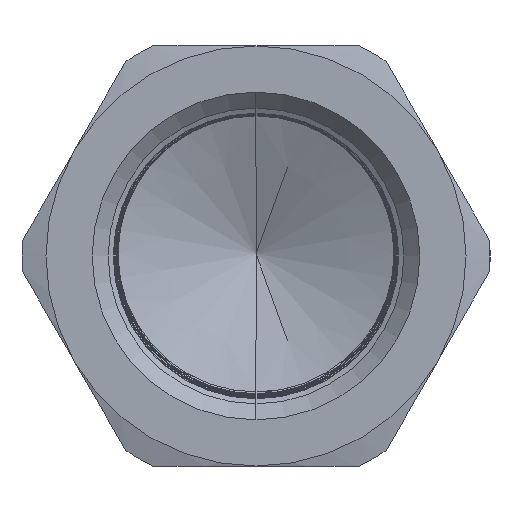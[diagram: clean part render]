
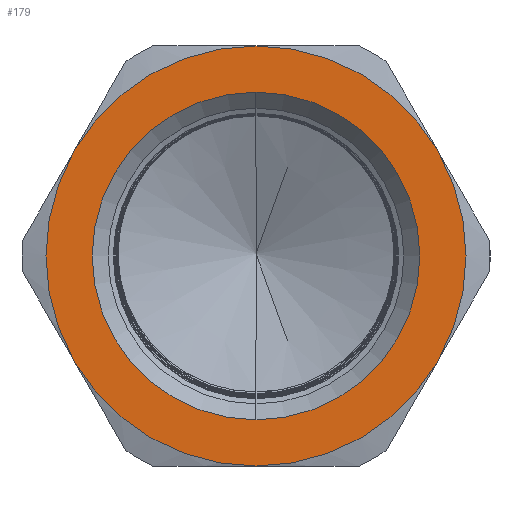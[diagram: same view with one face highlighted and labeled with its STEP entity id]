
A CAD part, left-side view. The second image highlights one B-rep face of the part: STEP entity #179.
In plain terms, the highlighted planar face has unit normal (-1, 0, 0).
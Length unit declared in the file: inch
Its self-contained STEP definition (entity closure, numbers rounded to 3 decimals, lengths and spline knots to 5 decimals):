
#72 = EDGE_CURVE ( 'NONE', #3877, #3922, #16555, .T. ) ;
#179 = ADVANCED_FACE ( 'NONE', ( #7583, #7575 ), #7584, .F. ) ;
#834 = EDGE_CURVE ( 'NONE', #2855, #2848, #9281, .T. ) ;
#835 = EDGE_CURVE ( 'NONE', #2848, #2846, #9287, .T. ) ;
#836 = EDGE_CURVE ( 'NONE', #2846, #2845, #9296, .T. ) ;
#837 = EDGE_CURVE ( 'NONE', #2845, #2844, #9300, .T. ) ;
#838 = EDGE_CURVE ( 'NONE', #2844, #2843, #9305, .T. ) ;
#839 = EDGE_CURVE ( 'NONE', #2843, #2855, #9308, .T. ) ;
#840 = EDGE_CURVE ( 'NONE', #3922, #3877, #9311, .T. ) ;
#2843 = VERTEX_POINT ( 'NONE', #12300 ) ;
#2844 = VERTEX_POINT ( 'NONE', #12301 ) ;
#2845 = VERTEX_POINT ( 'NONE', #12302 ) ;
#2846 = VERTEX_POINT ( 'NONE', #12303 ) ;
#2848 = VERTEX_POINT ( 'NONE', #12305 ) ;
#2855 = VERTEX_POINT ( 'NONE', #12312 ) ;
#3877 = VERTEX_POINT ( 'NONE', #16058 ) ;
#3922 = VERTEX_POINT ( 'NONE', #16103 ) ;
#4161 = EDGE_LOOP ( 'NONE', ( #16656, #16649 ) ) ;
#4166 = EDGE_LOOP ( 'NONE', ( #16844, #16846, #16850, #16852, #16859, #16860 ) ) ;
#5437 = CARTESIAN_POINT ( 'NONE',  ( 0., 0., 0. ) ) ;
#5439 = DIRECTION ( 'NONE',  ( -1., 0., 0. ) ) ;
#5440 = DIRECTION ( 'NONE',  ( 0., 0., 1. ) ) ;
#7575 = FACE_BOUND ( 'NONE', #4161, .T. ) ;
#7579 = CARTESIAN_POINT ( 'NONE',  ( 0., 0.50518, 0. ) ) ;
#7583 = FACE_OUTER_BOUND ( 'NONE', #4166, .T. ) ;
#7584 = PLANE ( 'NONE',  #17213 ) ;
#7586 = DIRECTION ( 'NONE',  ( 1., 0., 0. ) ) ;
#7587 = DIRECTION ( 'NONE',  ( 0., 0., -1. ) ) ;
#9281 = CIRCLE ( 'NONE', #9294, 0.4375 ) ;
#9287 = CIRCLE ( 'NONE', #9298, 0.4375 ) ;
#9294 = AXIS2_PLACEMENT_3D ( 'NONE', #10512, #10513, #10514 ) ;
#9296 = CIRCLE ( 'NONE', #9302, 0.4375 ) ;
#9298 = AXIS2_PLACEMENT_3D ( 'NONE', #10515, #10516, #10517 ) ;
#9300 = CIRCLE ( 'NONE', #9307, 0.4375 ) ;
#9302 = AXIS2_PLACEMENT_3D ( 'NONE', #10518, #10519, #10520 ) ;
#9305 = CIRCLE ( 'NONE', #9310, 0.4375 ) ;
#9307 = AXIS2_PLACEMENT_3D ( 'NONE', #10521, #10522, #10523 ) ;
#9308 = CIRCLE ( 'NONE', #9313, 0.4375 ) ;
#9310 = AXIS2_PLACEMENT_3D ( 'NONE', #10524, #10525, #10526 ) ;
#9311 = CIRCLE ( 'NONE', #9318, 0.34128 ) ;
#9313 = AXIS2_PLACEMENT_3D ( 'NONE', #10529, #10530, #10531 ) ;
#9318 = AXIS2_PLACEMENT_3D ( 'NONE', #10534, #10535, #10536 ) ;
#10512 = CARTESIAN_POINT ( 'NONE',  ( 0., 0., 0. ) ) ;
#10513 = DIRECTION ( 'NONE',  ( -1., 0., 0. ) ) ;
#10514 = DIRECTION ( 'NONE',  ( 0., 0., -1. ) ) ;
#10515 = CARTESIAN_POINT ( 'NONE',  ( 0., 0., 0. ) ) ;
#10516 = DIRECTION ( 'NONE',  ( -1., 0., 0. ) ) ;
#10517 = DIRECTION ( 'NONE',  ( 0., 0., -1. ) ) ;
#10518 = CARTESIAN_POINT ( 'NONE',  ( 0., 0., 0. ) ) ;
#10519 = DIRECTION ( 'NONE',  ( -1., 0., 0. ) ) ;
#10520 = DIRECTION ( 'NONE',  ( 0., 0., -1. ) ) ;
#10521 = CARTESIAN_POINT ( 'NONE',  ( 0., 0., 0. ) ) ;
#10522 = DIRECTION ( 'NONE',  ( -1., 0., 0. ) ) ;
#10523 = DIRECTION ( 'NONE',  ( 0., 0., -1. ) ) ;
#10524 = CARTESIAN_POINT ( 'NONE',  ( 0., 0., 0. ) ) ;
#10525 = DIRECTION ( 'NONE',  ( -1., 0., 0. ) ) ;
#10526 = DIRECTION ( 'NONE',  ( 0., 0., -1. ) ) ;
#10529 = CARTESIAN_POINT ( 'NONE',  ( 0., 0., 0. ) ) ;
#10530 = DIRECTION ( 'NONE',  ( -1., 0., 0. ) ) ;
#10531 = DIRECTION ( 'NONE',  ( 0., 0., -1. ) ) ;
#10534 = CARTESIAN_POINT ( 'NONE',  ( 0., 0., 0. ) ) ;
#10535 = DIRECTION ( 'NONE',  ( -1., 0., 0. ) ) ;
#10536 = DIRECTION ( 'NONE',  ( 0., 0., 1. ) ) ;
#12300 = CARTESIAN_POINT ( 'NONE',  ( 0., 0., -0.4375 ) ) ;
#12301 = CARTESIAN_POINT ( 'NONE',  ( 0., 0.37889, -0.21875 ) ) ;
#12302 = CARTESIAN_POINT ( 'NONE',  ( 0., 0.37889, 0.21875 ) ) ;
#12303 = CARTESIAN_POINT ( 'NONE',  ( 0., 0., 0.4375 ) ) ;
#12305 = CARTESIAN_POINT ( 'NONE',  ( 0., -0.37889, 0.21875 ) ) ;
#12312 = CARTESIAN_POINT ( 'NONE',  ( 0., -0.37889, -0.21875 ) ) ;
#16058 = CARTESIAN_POINT ( 'NONE',  ( 0., 0., -0.34128 ) ) ;
#16103 = CARTESIAN_POINT ( 'NONE',  ( 0., 0., 0.34128 ) ) ;
#16555 = CIRCLE ( 'NONE', #16558, 0.34128 ) ;
#16558 = AXIS2_PLACEMENT_3D ( 'NONE', #5437, #5439, #5440 ) ;
#16649 = ORIENTED_EDGE ( 'NONE', *, *, #72, .F. ) ;
#16656 = ORIENTED_EDGE ( 'NONE', *, *, #840, .F. ) ;
#16844 = ORIENTED_EDGE ( 'NONE', *, *, #834, .T. ) ;
#16846 = ORIENTED_EDGE ( 'NONE', *, *, #835, .T. ) ;
#16850 = ORIENTED_EDGE ( 'NONE', *, *, #836, .T. ) ;
#16852 = ORIENTED_EDGE ( 'NONE', *, *, #837, .T. ) ;
#16859 = ORIENTED_EDGE ( 'NONE', *, *, #838, .T. ) ;
#16860 = ORIENTED_EDGE ( 'NONE', *, *, #839, .T. ) ;
#17213 = AXIS2_PLACEMENT_3D ( 'NONE', #7579, #7586, #7587 ) ;
